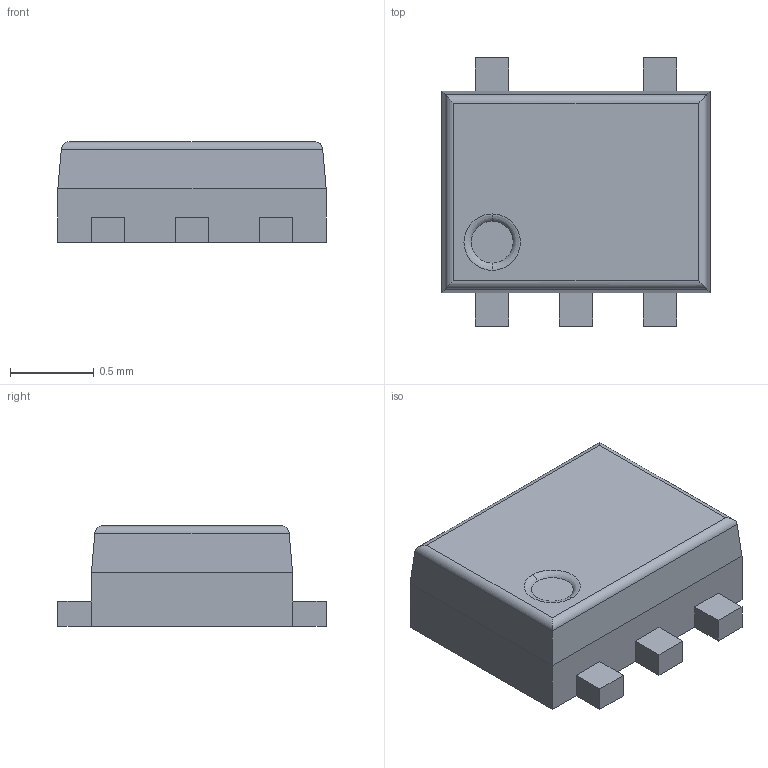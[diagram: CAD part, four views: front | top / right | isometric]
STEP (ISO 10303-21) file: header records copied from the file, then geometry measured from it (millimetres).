
FILE_DESCRIPTION (( 'STEP AP214' ), '1' );
FILE_NAME ( 'TRXSOFL5P50_160X160X60L20X20.STEP', '2021-10-06T06:48:57', ( '' ), ( '' ), '', '©2017 PCB Libraries, Inc.', '' );
FILE_SCHEMA (( 'AUTOMOTIVE_DESIGN' ));
Length unit declared in the file: millimetre
Products named in the file (1): TRXSOFL5P50_160X160X60L20X20
Bounding box: 1.6 x 1.6 x 0.6 mm (x, y, z)
Volume: 1.2 mm3; surface area: 8 mm2
Topology: 6 solids, 6 shells, 47 faces, 94 edges, 60 vertices
Faces by surface type: plane 41, cylinder 4, torus 2
Entity records: 1417 total; most frequent: CARTESIAN_POINT 214, DIRECTION 192, ORIENTED_EDGE 188, EDGE_CURVE 94, VECTOR 84, LINE 84, VERTEX_POINT 60, AXIS2_PLACEMENT_3D 54
